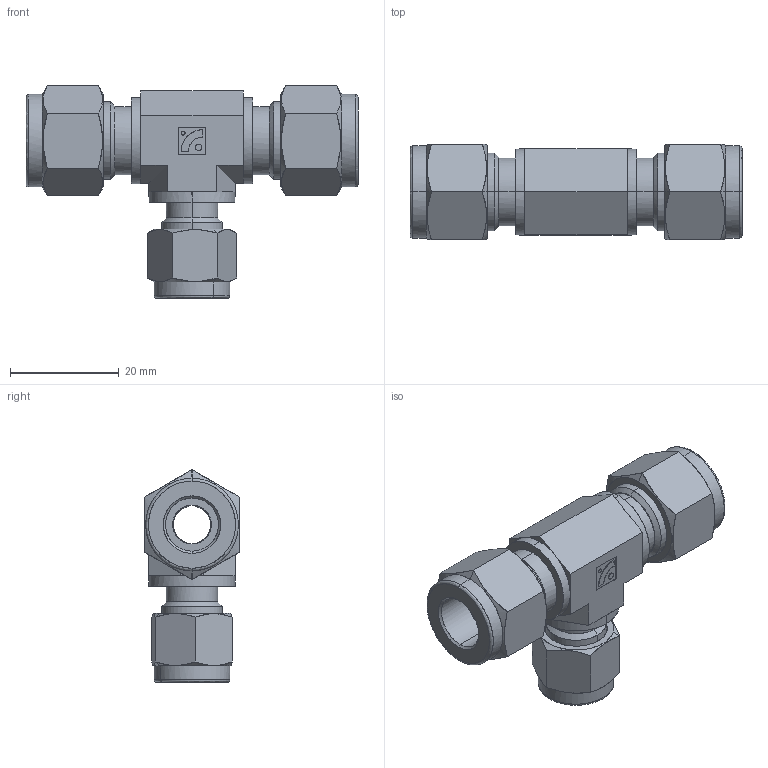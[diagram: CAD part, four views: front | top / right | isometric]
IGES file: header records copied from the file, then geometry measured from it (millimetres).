
Start section: Comment
Global section: file name: SRUT6-6-4.igs; native system:  By UGS Corp.; preprocessor: XPlus GENERIC/IGES 3.0; author: Author; organization: Title; date: 20100713.193828; units: millimetre
Bounding box: 60.96 x 17.46 x 39.03 mm (x, y, z)
Surface area: 9352.7 mm2 (no closed solid volume)
Topology: 0 solids, 0 shells, 183 faces, 800 edges, 800 vertices
Faces by surface type: bspline 183
